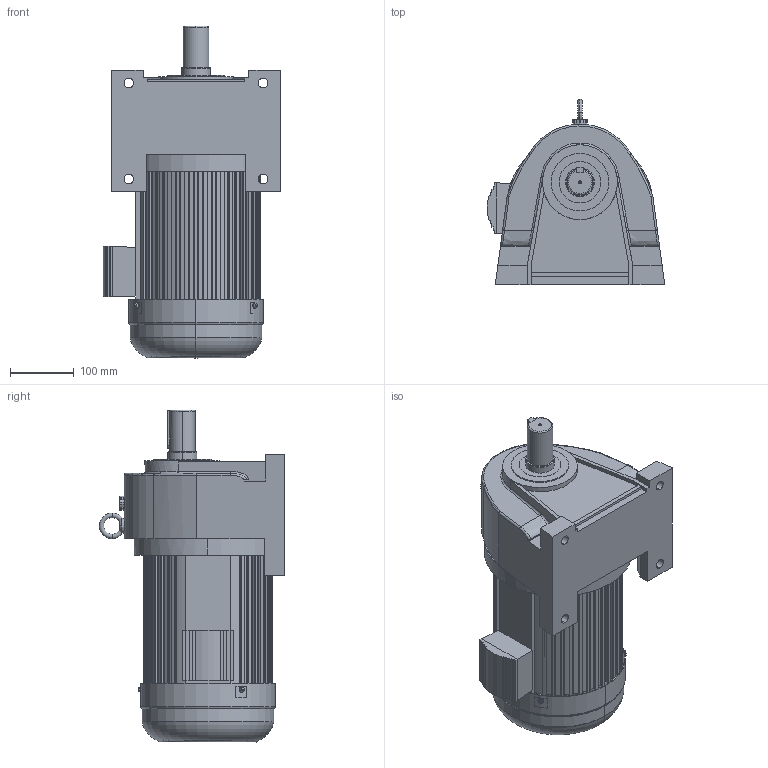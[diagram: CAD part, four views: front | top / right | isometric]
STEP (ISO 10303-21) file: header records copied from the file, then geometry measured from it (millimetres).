
FILE_DESCRIPTION (( 'STEP AP214' ), '1' );
FILE_NAME ('CH40-3700.STEP', '2024-01-10T02:47:10', ( '微软用户' ), ( '微软中国' ), 'SwSTEP 2.0', 'SolidWorks 2014', '' );
FILE_SCHEMA (( 'AUTOMOTIVE_DESIGN' ));
Length unit declared in the file: millimetre
Products named in the file (1): CH40-3700
Bounding box: 277.5 x 289.83 x 519.1 mm (x, y, z)
Volume: 8908350.3 mm3; surface area: 934656.2 mm2
Topology: 10 solids, 10 shells, 1366 faces, 3939 edges, 2608 vertices
Faces by surface type: plane 884, cylinder 432, torus 30, cone 14, bspline 6
Entity records: 47900 total; most frequent: CARTESIAN_POINT 9285, ORIENTED_EDGE 7878, DIRECTION 7604, EDGE_CURVE 3939, LINE 2960, VECTOR 2960, VERTEX_POINT 2608, AXIS2_PLACEMENT_3D 2322
